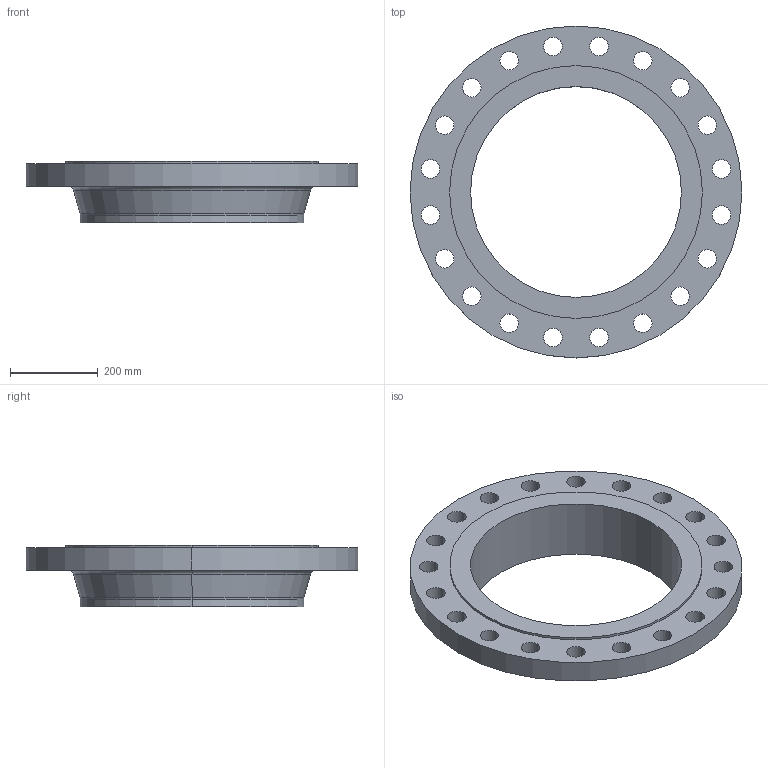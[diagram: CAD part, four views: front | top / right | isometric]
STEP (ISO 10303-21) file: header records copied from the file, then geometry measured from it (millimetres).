
FILE_DESCRIPTION (( 'STEP AP214' ), '1' );
FILE_NAME ('PN40 DN500 Type 11 - Type E Face.STEP', '2018-12-29T04:29:22', ( '' ), ( '' ), 'SwSTEP 2.0', 'SolidWorks 2019', '' );
FILE_SCHEMA (( 'AUTOMOTIVE_DESIGN' ));
Length unit declared in the file: millimetre
Products named in the file (1): PN40 DN500 Type 11 - Type E Face
Bounding box: 755 x 755 x 140 mm (x, y, z)
Volume: 15558501.2 mm3; surface area: 1063655.6 mm2
Topology: 1 solids, 1 shells, 58 faces, 156 edges, 102 vertices
Faces by surface type: cylinder 48, torus 4, plane 4, cone 2
Entity records: 1996 total; most frequent: DIRECTION 380, CARTESIAN_POINT 317, ORIENTED_EDGE 312, AXIS2_PLACEMENT_3D 165, EDGE_CURVE 156, CIRCLE 106, VERTEX_POINT 102, EDGE_LOOP 102
